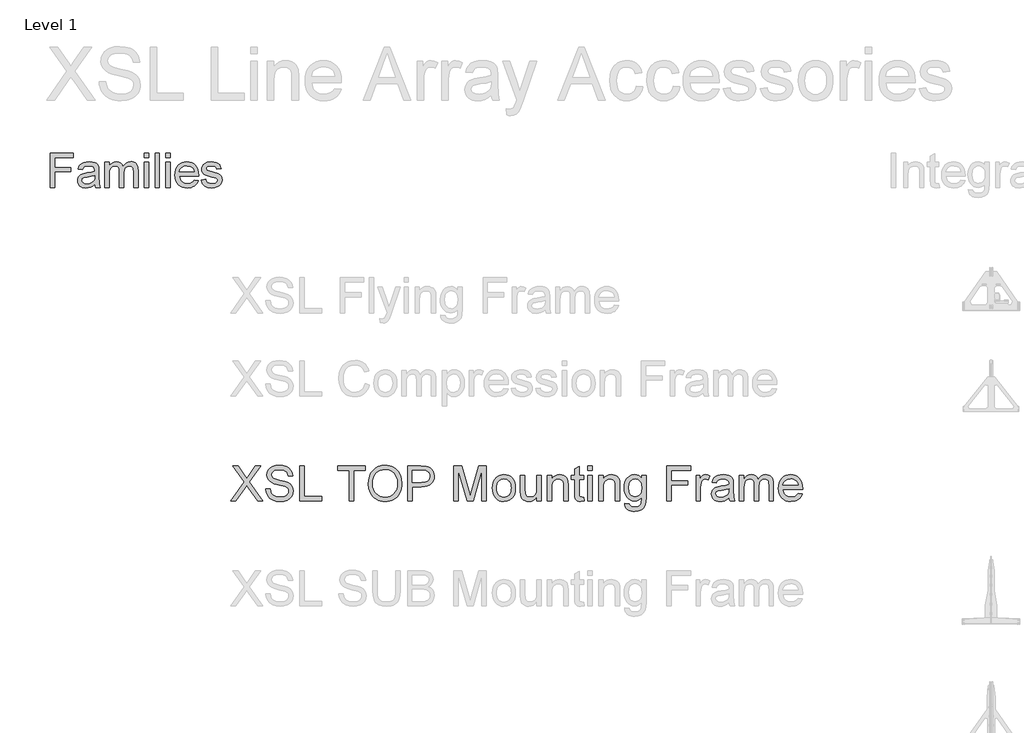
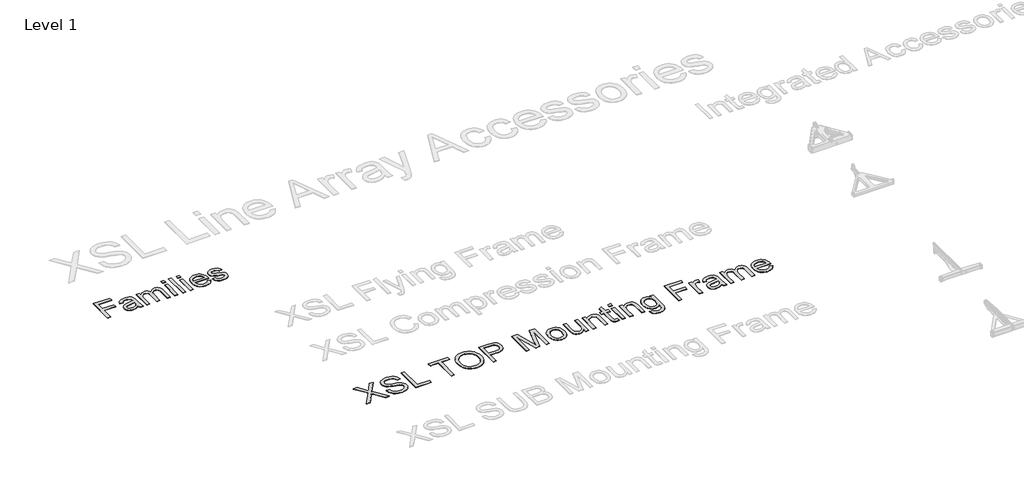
# One storey, part 8 of 52: 2 proxies.
"""IFC4 building model written with IfcOpenShell, lengths in millimetres."""

from ifc_helpers import new_model, si_unit, origin, origin_with_axes, place, context, project, spatial, polyline, outline, extrude, element, save

model = new_model("IFC4")

# Units and contexts
model_context = context("Model", 3, world=origin())
ifc_project = project(units=[si_unit("LENGTHUNIT", "METRE", prefix="MILLI")], contexts=[model_context])

# Site, building, storey
site = spatial("IfcSite", under=ifc_project)
building = spatial("IfcBuilding", under=site)
storey = spatial("IfcBuildingStorey", under=building, Name="Level 1", Elevation=0.0)

# Proxies
placement = place(None, origin())
element("IfcBuildingElementProxy", 1, Name="400mm Arial", ObjectType="400mm Arial", at=placement, inside=storey, context=model_context, shape_type="SweptSolid", body=[
    extrude(outline(polyline([(-21056.720891, -61267.5695164), (-21056.720891, -60875.8119407), (-20793.5087698, -60875.8119407), (-20793.5087698, -60924.7816376), (-21007.7511941, -60924.7816376), (-21007.7511941, -61041.0846679), (-20824.1148304, -61041.0846679), (-20824.1148304, -61090.0543649), (-21007.7511941, -61090.0543649), (-21007.7511941, -61267.5695164), (-21056.720891, -61267.5695164)])), origin_with_axes(), (0.0, 0.0, 1.0), 5.0),
    extrude(outline(polyline([(-20548.660285, -61230.8422437), (-20572.0571836, -61250.90356), (-20596.1475009, -61264.0306907), (-20621.4811893, -61271.2757191), (-20648.6082016, -61273.6907285), (-20670.4120309, -61272.2381362), (-20689.5318522, -61267.8803592), (-20705.9676654, -61260.6173976), (-20719.7194706, -61250.4492513), (-20730.5780466, -61238.0215169), (-20738.3341723, -61223.979791), (-20742.9878477, -61208.3240737), (-20744.5390729, -61191.0543649), (-20742.1957963, -61170.7539388), (-20735.1659668, -61152.3185695), (-20724.3223352, -61136.5373195), (-20710.5376524, -61124.1992513), (-20676.2493001, -61108.1310695), (-20633.879035, -61100.7664861), (-20583.8094327, -61093.019327), (-20548.9472168, -61083.9331528), (-20548.660285, -61073.0297437), (-20552.0317338, -61051.1751035), (-20562.1460804, -61036.8763346), (-20584.7658721, -61026.2598573), (-20616.2805501, -61022.7210316), (-20645.4519516, -61025.0762636), (-20665.8241107, -61032.1419596), (-20679.7163929, -61045.2093128), (-20689.4481638, -61065.5695164), (-20738.4178607, -61059.4483043), (-20729.9175056, -61032.6680013), (-20717.2327282, -61011.6263346), (-20699.1799346, -60995.5342418), (-20674.5755312, -60983.6026604), (-20644.4835568, -60976.214166), (-20609.9680501, -60973.7513346), (-20576.8632916, -60975.9272342), (-20550.6209857, -60982.4549331), (-20530.8346458, -60992.2703924), (-20517.097785, -61004.3095732), (-20507.9876997, -61019.1941613), (-20502.0816865, -61037.5458422), (-20499.690588, -61080.394327), (-20499.690588, -61141.3195164), (-20497.2038456, -61226.3948005), (-20487.4481638, -61267.5695164), (-20536.4178607, -61267.5695164), (-20544.2606638, -61250.5448952), (-20548.660285, -61230.8422437)]), holes=[polyline([(-20548.660285, -61132.9028498), (-20581.5618001, -61141.0564956), (-20627.6621789, -61147.9189482), (-20669.7933342, -61155.8573952), (-20680.7565208, -61161.2851888), (-20688.8743001, -61168.769327), (-20693.8956069, -61177.7359464), (-20695.5693759, -61187.6111831), (-20691.9229507, -61202.1729729), (-20680.9836751, -61214.1045543), (-20662.990659, -61222.0669123), (-20638.1830122, -61224.7210316), (-20611.8809289, -61221.7919359), (-20588.6394516, -61213.004649), (-20569.7975956, -61200.0568507), (-20556.6943759, -61184.646221), (-20550.8840066, -61168.769327), (-20548.9472168, -61146.771221), (-20548.660285, -61132.9028498)])]), origin_with_axes(), (0.0, 0.0, 1.0), 5.0),
    extrude(outline(polyline([(-20432.3572547, -61267.5695164), (-20432.3572547, -60979.8725467), (-20383.3875577, -60979.8725467), (-20383.3875577, -61027.2162967), (-20368.658391, -61005.469256), (-20349.720891, -60988.4326793), (-20327.2206543, -60977.4216708), (-20301.8032774, -60973.7513346), (-20274.5686657, -60977.4934037), (-20252.7379365, -60988.7196111), (-20236.4306448, -61006.6887162), (-20225.7663456, -61030.6594785), (-20207.9167954, -61005.7621656), (-20187.5565918, -60987.9783706), (-20164.6857348, -60977.3080936), (-20139.3042244, -60973.7513346), (-20119.7002057, -60975.2308268), (-20102.4932632, -60979.6693034), (-20087.683397, -60987.0667643), (-20075.2706069, -60997.4232096), (-20065.4581365, -61010.8581942), (-20058.4492291, -61027.4912731), (-20054.2438846, -61047.3224461), (-20052.8421032, -61070.3517134), (-20052.8421032, -61267.5695164), (-20101.8118001, -61267.5695164), (-20101.8118001, -61091.3933801), (-20106.3548872, -61050.505596), (-20112.7391202, -61039.2315666), (-20122.8056448, -61030.3725467), (-20135.7534431, -61024.6339104), (-20150.7814971, -61022.7210316), (-20177.3107348, -61027.6227835), (-20198.9382206, -61042.3280392), (-20207.3279874, -61053.6080463), (-20213.320678, -61067.84106), (-20218.1148304, -61105.1661073), (-20218.1148304, -61267.5695164), (-20267.0845274, -61267.5695164), (-20267.0845274, -61085.9416755), (-20269.9179791, -61058.2527551), (-20278.4183342, -61038.5022816), (-20293.3746552, -61026.6663441), (-20315.5760047, -61022.7210316), (-20334.4417717, -61025.3512399), (-20351.8250577, -61033.2418649), (-20366.1716486, -61046.2016187), (-20375.9273304, -61064.0392134), (-20381.5225009, -61088.7870827), (-20383.3875577, -61122.4776604), (-20383.3875577, -61267.5695164), (-20432.3572547, -61267.5695164)])), origin_with_axes(), (0.0, 0.0, 1.0), 5.0),
    extrude(outline(polyline([(-19979.3875577, -60924.7816376), (-19979.3875577, -60875.8119407), (-19930.4178607, -60875.8119407), (-19930.4178607, -60924.7816376), (-19979.3875577, -60924.7816376)])), origin_with_axes(), (0.0, 0.0, 1.0), 5.0),
    extrude(outline(polyline([(-19979.3875577, -61267.5695164), (-19979.3875577, -60979.8725467), (-19930.4178607, -60979.8725467), (-19930.4178607, -61267.5695164), (-19979.3875577, -61267.5695164)])), origin_with_axes(), (0.0, 0.0, 1.0), 5.0),
    extrude(outline(polyline([(-19856.9633153, -61267.5695164), (-19856.9633153, -60875.8119407), (-19807.9936183, -60875.8119407), (-19807.9936183, -61267.5695164), (-19856.9633153, -61267.5695164)])), origin_with_axes(), (0.0, 0.0, 1.0), 5.0),
    extrude(outline(polyline([(-19734.5390729, -60924.7816376), (-19734.5390729, -60875.8119407), (-19685.5693759, -60875.8119407), (-19685.5693759, -60924.7816376), (-19734.5390729, -60924.7816376)])), origin_with_axes(), (0.0, 0.0, 1.0), 5.0),
    extrude(outline(polyline([(-19734.5390729, -61267.5695164), (-19734.5390729, -60979.8725467), (-19685.5693759, -60979.8725467), (-19685.5693759, -61267.5695164), (-19734.5390729, -61267.5695164)])), origin_with_axes(), (0.0, 0.0, 1.0), 5.0),
    extrude(outline(polyline([(-19410.6886941, -61181.8725467), (-19362.6754365, -61187.9937589), (-19370.0370309, -61207.2241684), (-19379.975034, -61224.1710789), (-19392.4894457, -61238.8344904), (-19407.580266, -61251.2144028), (-19425.0920736, -61261.0477953), (-19444.8694469, -61268.0716471), (-19491.220891, -61273.6907285), (-19521.605775, -61271.2667525), (-19548.6789876, -61263.9948242), (-19572.4405288, -61251.8749437), (-19592.8903986, -61234.9071111), (-19609.3351784, -61213.5635683), (-19621.0814497, -61188.3165571), (-19628.1292125, -61159.1660777), (-19630.4784668, -61126.1121301), (-19628.1053015, -61091.937355), (-19620.9858058, -61061.8154918), (-19609.1199796, -61035.7465406), (-19592.5078229, -61013.7305013), (-19572.1117528, -60996.2396159), (-19548.8941865, -60983.7461263), (-19522.855124, -60976.2500325), (-19493.9945653, -60973.7513346), (-19466.0635461, -60976.2440548), (-19440.8045795, -60983.7222153), (-19418.2176654, -60996.1858161), (-19398.3028039, -61013.6348573), (-19382.0463231, -61035.6030747), (-19370.4345511, -61061.6242039), (-19363.4674879, -61091.6982451), (-19361.1451335, -61125.8251982), (-19361.4320653, -61139.0240619), (-19581.5087698, -61139.0240619), (-19578.6723292, -61158.5653142), (-19573.0323257, -61175.6796017), (-19564.5887592, -61190.3669241), (-19553.3416297, -61202.6272816), (-19524.9234242, -61219.1975941), (-19490.2644516, -61224.7210316), (-19464.2014782, -61222.1625562), (-19442.2511941, -61214.4871301), (-19424.4135994, -61201.2165335), (-19410.6886941, -61181.8725467)]), holes=[polyline([(-19581.5087698, -61090.0543649), (-19410.1148304, -61090.0543649), (-19416.7381732, -61064.1826793), (-19429.721838, -61045.675577), (-19443.076123, -61035.6329634), (-19458.2715539, -61028.4596679), (-19494.1858532, -61022.7210316), (-19527.1949677, -61027.2999852), (-19554.4893569, -61041.036846), (-19573.4627234, -61062.4491329), (-19581.5087698, -61090.0543649)])]), origin_with_axes(), (0.0, 0.0, 1.0), 5.0),
    extrude(outline(polyline([(-19330.5390729, -61181.8725467), (-19281.5693759, -61175.7513346), (-19273.8461278, -61196.6973573), (-19258.9017622, -61212.0960316), (-19236.6406354, -61221.5647816), (-19206.9671032, -61224.7210316), (-19177.6522357, -61221.8278024), (-19157.0409668, -61213.1481149), (-19144.8463645, -61200.5709369), (-19140.7814971, -61185.9852361), (-19144.8702755, -61173.503702), (-19157.1366107, -61163.9871301), (-19207.5409668, -61150.0231149), (-19281.2824441, -61126.0643081), (-19299.9449677, -61114.0251272), (-19313.4666297, -61098.0884558), (-19321.680053, -61079.2705107), (-19324.4178607, -61058.5875089), (-19322.2180501, -61039.6141424), (-19315.6186183, -61022.099346), (-19305.2173399, -61006.7365382), (-19291.6119895, -60994.2191376), (-19260.4798872, -60979.7290808), (-19218.3487319, -60973.7513346), (-19186.4753891, -60976.1543886), (-19158.7625577, -60983.3635505), (-19136.4775198, -60994.6734464), (-19120.8875577, -61009.378702), (-19110.5580122, -61028.5672674), (-19104.0542244, -61053.3270922), (-19153.0239213, -61059.4483043), (-19159.2049109, -61044.0376746), (-19171.4353797, -61032.4288914), (-19189.8348825, -61025.1479965), (-19214.5229744, -61022.7210316), (-19242.6422925, -61025.0403971), (-19261.3885047, -61031.9984937), (-19271.933249, -61042.0411073), (-19275.4481638, -61053.614024), (-19269.6138835, -61067.864971), (-19251.345891, -61078.6727361), (-19209.1669138, -61089.0979255), (-19137.2904933, -61112.1481149), (-19118.3051713, -61123.1710789), (-19103.9107585, -61138.2589104), (-19094.8365397, -61157.4594312), (-19091.8118001, -61180.8204634), (-19095.3625814, -61204.9705581), (-19106.0149251, -61227.6859937), (-19123.3623446, -61247.1854018), (-19146.9983532, -61261.6874142), (-19175.5480691, -61270.6899), (-19207.6366107, -61273.6907285), (-19233.9924938, -61272.244114), (-19257.0127944, -61267.9042702), (-19276.6975127, -61260.6711973), (-19293.0466486, -61250.5448952), (-19306.4009336, -61237.5731859), (-19317.1010994, -61221.8038914), (-19325.1471458, -61203.2370117), (-19330.5390729, -61181.8725467)])), origin_with_axes(), (0.0, 0.0, 1.0), 5.0),
])
element("IfcBuildingElementProxy", 2, Name="400mm Arial", ObjectType="400mm Arial", at=placement, inside=storey, context=model_context, shape_type="SweptSolid", body=[
    extrude(outline(polyline([(-18995.0211414, -64856.6859046), (-18840.118296, -64637.722541), (-18969.9070639, -64454.860664), (-18909.6725186, -64454.860664), (-18836.5866289, -64557.7695207), (-18811.9630606, -64597.8931837), (-18783.1211122, -64557.0828077), (-18710.8200374, -64454.860664), (-18649.7025753, -64454.860664), (-18779.4913432, -64638.3111522), (-18624.5884978, -64856.6859046), (-18684.8230431, -64856.6859046), (-18788.0262055, -64711.1027363), (-18809.510514, -64680.8873618), (-18833.1530636, -64714.0457923), (-18933.9036793, -64856.6859046), (-18995.0211414, -64856.6859046)])), origin_with_axes(), (0.0, 0.0, 1.0), 5.0),
    extrude(outline(polyline([(-18593.1959008, -64718.5584781), (-18542.9677458, -64718.5584781), (-18537.2042612, -64746.4316706), (-18526.780938, -64768.8356841), (-18510.5205538, -64786.6166472), (-18487.2458862, -64800.6206885), (-18458.7963453, -64809.7073738), (-18427.0113409, -64812.7362689), (-18399.0277838, -64810.4431378), (-18374.5268429, -64803.5637445), (-18354.6734779, -64792.6744374), (-18340.6326484, -64778.3515651), (-18332.2817271, -64761.9072399), (-18329.4980867, -64744.6535743), (-18331.5827513, -64727.8413671), (-18337.8367453, -64713.3100283), (-18350.5409368, -64700.9124051), (-18371.9761944, -64690.5013446), (-18445.1111351, -64671.3224299), (-18493.1197354, -64658.6305011), (-18523.837882, -64646.5517089), (-18548.841595, -64629.6536626), (-18566.5612444, -64609.1748982), (-18577.1194577, -64585.5568741), (-18580.6388621, -64559.2410487), (-18576.2855918, -64529.8227518), (-18563.225781, -64502.3910177), (-18541.8027861, -64479.1408756), (-18512.3599638, -64462.2673548), (-18477.0187668, -64452.0034471), (-18437.9006479, -64448.5821446), (-18395.5206421, -64452.1628627), (-18358.438137, -64462.9050169), (-18327.9775078, -64480.5878782), (-18305.4631297, -64504.9907172), (-18291.2138337, -64534.592955), (-18285.548451, -64567.8740129), (-18335.7766061, -64567.8740129), (-18344.9981814, -64537.903893), (-18353.3613655, -64526.04583), (-18364.226147, -64516.2724317), (-18394.2698433, -64503.1758327), (-18435.9386106, -64498.8102996), (-18478.5883966, -64503.1267817), (-18494.8917004, -64508.5223843), (-18507.847278, -64516.076228), (-18524.7698497, -64535.1325153), (-18530.410707, -64557.7695207), (-18526.413056, -64577.0710628), (-18514.4201029, -64592.595683), (-18486.0686638, -64606.4770969), (-18432.4069435, -64620.6528165), (-18377.0284405, -64634.1172975), (-18343.5266535, -64645.8649959), (-18314.8931715, -64664.0874173), (-18294.9171792, -64686.57727), (-18283.1817435, -64713.0892991), (-18279.2699316, -64743.37825), (-18283.7703547, -64774.3416513), (-18297.2716239, -64803.4656426), (-18319.2219163, -64828.5306692), (-18349.0694088, -64847.3171764), (-18384.9624288, -64859.0526121), (-18425.0493036, -64862.9644239), (-18474.2596518, -64858.7460437), (-18514.7634595, -64846.0909031), (-18547.0267105, -64824.9499511), (-18571.5153886, -64795.2741368), (-18587.2362125, -64759.1235994), (-18593.1959008, -64718.5584781)])), origin_with_axes(), (0.0, 0.0, 1.0), 5.0),
    extrude(outline(polyline([(-18203.927699, -64856.6859046), (-18203.927699, -64454.860664), (-18153.6995439, -64454.860664), (-18153.6995439, -64806.4577495), (-17952.7869236, -64806.4577495), (-17952.7869236, -64856.6859046), (-18203.927699, -64856.6859046)])), origin_with_axes(), (0.0, 0.0, 1.0), 5.0),
    extrude(outline(polyline([(-17638.8609544, -64856.6859046), (-17638.8609544, -64505.088819), (-17770.7098615, -64505.088819), (-17770.7098615, -64454.860664), (-17456.7838923, -64454.860664), (-17456.7838923, -64505.088819), (-17588.6327993, -64505.088819), (-17588.6327993, -64856.6859046), (-17638.8609544, -64856.6859046)])), origin_with_axes(), (0.0, 0.0, 1.0), 5.0),
    extrude(outline(polyline([(-17419.112776, -64661.070785), (-17415.7650498, -64613.93897), (-17405.7218713, -64572.2150204), (-17388.9832406, -64535.8989361), (-17365.5491575, -64504.9907172), (-17336.823705, -64480.3119667), (-17304.2109661, -64462.6842877), (-17267.7109409, -64452.1076804), (-17227.3236292, -64448.5821446), (-17200.2904339, -64450.2376136), (-17174.618402, -64455.2040205), (-17150.3075335, -64463.4813654), (-17127.3578283, -64475.0696482), (-17106.4130801, -64489.6193811), (-17088.1170822, -64506.7810762), (-17072.4698346, -64526.5547335), (-17059.4713375, -64548.9403529), (-17049.2564808, -64573.429031), (-17041.9601545, -64599.5118645), (-17036.1230935, -64656.4599973), (-17037.6590009, -64686.1174175), (-17042.2667228, -64714.1684196), (-17049.9462595, -64740.6130037), (-17060.6976108, -64765.4511698), (-17074.2663251, -64788.0268615), (-17090.3979505, -64807.6840228), (-17109.0924873, -64824.4226536), (-17130.3499352, -64838.2427539), (-17153.3333629, -64849.0584845), (-17177.2058387, -64856.7840064), (-17201.9673626, -64861.4193196), (-17227.6179347, -64862.9644239), (-17255.1232453, -64861.2568383), (-17281.1325023, -64856.1340816), (-17305.6457059, -64847.5961536), (-17328.6628561, -64835.6430544), (-17349.5830789, -64820.7377023), (-17367.8055004, -64803.3430153), (-17383.3301206, -64783.4589934), (-17396.1569395, -64761.0856367), (-17413.3738168, -64712.4638997), (-17419.112776, -64661.070785)]), holes=[polyline([(-17368.8846209, -64661.5612943), (-17366.3738263, -64694.8607462), (-17358.8414424, -64724.4200646), (-17346.2874693, -64750.2392493), (-17328.711907, -64772.3183003), (-17307.3471602, -64790.0011616), (-17283.4256334, -64802.6317767), (-17256.9473268, -64810.2101458), (-17227.9122403, -64812.7362689), (-17198.3805132, -64810.1856204), (-17171.5895069, -64802.5336749), (-17147.5392214, -64789.7804324), (-17126.2296569, -64771.9258929), (-17108.7828533, -64749.3808579), (-17096.3208507, -64722.5561291), (-17088.8436491, -64691.4517064), (-17086.3512486, -64656.0675899), (-17090.6186797, -64611.6029194), (-17103.4209732, -64573.1715136), (-17124.4270351, -64541.7421285), (-17153.3057717, -64518.2835199), (-17188.1441967, -64503.6786047), (-17227.0293236, -64498.8102996), (-17255.0558002, -64501.1555474), (-17281.0589259, -64508.1912905), (-17305.0387006, -64519.9175291), (-17326.9951244, -64536.3342632), (-17345.3217791, -64558.2324389), (-17358.4122468, -64586.4030027), (-17366.2665274, -64620.8459545), (-17368.8846209, -64661.5612943)])]), origin_with_axes(), (0.0, 0.0, 1.0), 5.0),
    extrude(outline(polyline([(-16967.0593803, -64856.6859046), (-16967.0593803, -64454.860664), (-16818.1407487, -64454.860664), (-16758.102407, -64458.6866367), (-16731.3328605, -64465.8358101), (-16709.296729, -64477.4731439), (-16691.5525541, -64494.1259356), (-16677.6588774, -64516.3214826), (-16668.6825567, -64542.5024179), (-16665.6904498, -64571.1113744), (-16667.7107351, -64595.7778622), (-16673.771591, -64618.4700499), (-16683.8730175, -64639.1879376), (-16698.0150145, -64657.9315253), (-16717.4299868, -64673.4684082), (-16743.350339, -64684.5661817), (-16775.7760712, -64691.2248459), (-16814.7071834, -64693.4444006), (-16916.8312252, -64693.4444006), (-16916.8312252, -64856.6859046), (-16967.0593803, -64856.6859046)]), holes=[polyline([(-16916.8312252, -64643.2162455), (-16811.7641274, -64643.2162455), (-16767.2258805, -64638.6054578), (-16750.6221398, -64632.8419732), (-16737.7953209, -64624.7730948), (-16728.2242577, -64614.6134204), (-16721.3877839, -64602.5775478), (-16715.9186049, -64572.877208), (-16719.1437037, -64550.313779), (-16728.8190002, -64531.2820171), (-16743.7427465, -64516.9591447), (-16762.7131947, -64508.5223843), (-16812.9413498, -64505.088819), (-16916.8312252, -64505.088819), (-16916.8312252, -64643.2162455)])]), origin_with_axes(), (0.0, 0.0, 1.0), 5.0),
    extrude(outline(polyline([(-16439.663752, -64856.6859046), (-16439.663752, -64454.860664), (-16353.2360086, -64454.860664), (-16271.0266454, -64738.0807493), (-16254.4474302, -64797.2361741), (-16236.4947888, -64733.175656), (-16155.6588517, -64454.860664), (-16069.2311083, -64454.860664), (-16069.2311083, -64856.6859046), (-16119.4592634, -64856.6859046), (-16119.4592634, -64505.088819), (-16220.4060829, -64856.6859046), (-16288.4887775, -64856.6859046), (-16389.4355969, -64505.088819), (-16389.4355969, -64856.6859046), (-16439.663752, -64856.6859046)])), origin_with_axes(), (0.0, 0.0, 1.0), 5.0),
    extrude(outline(polyline([(-16000.1673951, -64709.140699), (-15997.4511997, -64670.9238911), (-15989.3026135, -64637.9923212), (-15975.7216365, -64610.3459892), (-15956.7082687, -64587.9848953), (-15937.5661423, -64573.6926798), (-15916.437453, -64563.4839544), (-15893.322201, -64557.3587192), (-15868.2203862, -64555.3169741), (-15840.5096749, -64557.8032433), (-15815.4538453, -64565.2620507), (-15793.0528975, -64577.6933965), (-15773.3068314, -64595.0972805), (-15757.1905343, -64616.8850917), (-15745.6788936, -64642.4682188), (-15738.7719091, -64671.8466618), (-15736.469581, -64705.0204207), (-15740.5408084, -64755.7636105), (-15752.7544906, -64794.39122), (-15772.7550084, -64823.3190076), (-15800.1867425, -64844.9627316), (-15832.7688246, -64858.4640009), (-15868.2203862, -64862.9644239), (-15896.3357677, -64860.4873518), (-15921.6245891, -64853.0561355), (-15944.0868506, -64840.670775), (-15963.7225521, -64823.3312703), (-15979.6671709, -64801.331927), (-15991.0561844, -64774.9670507), (-15997.8895924, -64744.2366414), (-16000.1673951, -64709.140699)]), holes=[polyline([(-15949.93924, -64709.0425972), (-15948.4861062, -64733.4055823), (-15944.1267045, -64754.500549), (-15936.8610351, -64772.3274974), (-15926.6890979, -64786.8864273), (-15914.3160002, -64798.195733), (-15900.4468489, -64806.2738085), (-15885.0816443, -64811.1206538), (-15868.2203862, -64812.7362689), (-15851.4449672, -64811.1114567), (-15836.1410762, -64806.2370203), (-15822.3087132, -64798.1129596), (-15809.9478781, -64786.7392745), (-15799.775941, -64772.0362575), (-15792.5102716, -64753.9242006), (-15788.1508699, -64732.4031039), (-15786.697736, -64707.4729673), (-15788.160067, -64683.8825344), (-15792.5470598, -64663.3393906), (-15799.8587144, -64645.8435361), (-15810.0950309, -64631.3949707), (-15822.5018512, -64620.085665), (-15836.3250172, -64612.0075896), (-15851.5645288, -64607.1607443), (-15868.2203862, -64605.5451292), (-15885.0816443, -64607.1546129), (-15900.4468489, -64611.9830641), (-15914.3160002, -64620.0304827), (-15926.6890979, -64631.2968688), (-15936.8610351, -64645.8128792), (-15944.1267045, -64663.6091708), (-15948.4861062, -64684.6857434), (-15949.93924, -64709.0425972)])]), origin_with_axes(), (0.0, 0.0, 1.0), 5.0),
    extrude(outline(polyline([(-15491.607325, -64856.6859046), (-15491.607325, -64805.9672402), (-15509.7806955, -64830.9035081), (-15530.946173, -64848.715128), (-15555.1037573, -64859.4021), (-15582.2534486, -64862.9644239), (-15606.7176013, -64860.4628264), (-15629.4894968, -64852.9580337), (-15648.5948351, -64841.6763192), (-15662.0593161, -64827.8439561), (-15671.1214759, -64811.0440117), (-15677.0198505, -64790.8595529), (-15679.9629065, -64744.163065), (-15679.9629065, -64561.5954935), (-15629.7347514, -64561.5954935), (-15629.7347514, -64720.5205154), (-15626.6935936, -64771.7296891), (-15619.3727419, -64788.8116764), (-15606.8279659, -64801.7979109), (-15589.8931314, -64810.0016794), (-15569.4021042, -64812.7362689), (-15547.7338547, -64809.9403657), (-15527.4635568, -64801.5526562), (-15510.7494515, -64788.3456926), (-15499.7497798, -64771.092027), (-15493.6429387, -64747.4617402), (-15491.607325, -64715.1249128), (-15491.607325, -64561.5954935), (-15441.3791699, -64561.5954935), (-15441.3791699, -64856.6859046), (-15491.607325, -64856.6859046)])), origin_with_axes(), (0.0, 0.0, 1.0), 5.0),
    extrude(outline(polyline([(-15372.3154567, -64856.6859046), (-15372.3154567, -64561.5954935), (-15322.0873016, -64561.5954935), (-15322.0873016, -64602.798277), (-15304.6374323, -64582.025207), (-15283.6804213, -64567.1872998), (-15259.2162686, -64558.2845555), (-15231.2449743, -64555.3169741), (-15206.486516, -64557.7082071), (-15183.8127223, -64564.881906), (-15164.9035878, -64575.9428913), (-15151.4391068, -64589.9959835), (-15142.3033706, -64607.0043944), (-15136.3804704, -64626.9313358), (-15133.7317201, -64675.4917592), (-15133.7317201, -64856.6859046), (-15183.9598751, -64856.6859046), (-15183.9598751, -64682.2607879), (-15185.4068777, -64656.2883191), (-15189.7478852, -64637.8206429), (-15197.75545, -64624.5891538), (-15210.2021241, -64614.3252461), (-15226.15594, -64607.7401584), (-15244.6849298, -64605.5451292), (-15274.1032267, -64610.4747479), (-15299.180516, -64625.2636041), (-15309.2022347, -64637.3362649), (-15316.3606052, -64653.8357724), (-15320.6556275, -64674.7621266), (-15322.0873016, -64700.1153274), (-15322.0873016, -64856.6859046), (-15372.3154567, -64856.6859046)])), origin_with_axes(), (0.0, 0.0, 1.0), 5.0),
    extrude(outline(polyline([(-14957.9331773, -64814.796408), (-14951.6546579, -64858.1574325), (-14989.2276724, -64862.9644239), (-15013.3362058, -64860.8797593), (-15031.3133726, -64854.6257654), (-15044.0175642, -64844.9872571), (-15052.3071718, -64832.7490494), (-15056.8689085, -64811.7307247), (-15058.3894875, -64775.7518656), (-15058.3894875, -64611.8236486), (-15096.0606038, -64611.8236486), (-15096.0606038, -64561.5954935), (-15058.3894875, -64561.5954935), (-15058.3894875, -64489.8830299), (-15008.1613324, -64460.3543684), (-15008.1613324, -64561.5954935), (-14957.9331773, -64561.5954935), (-14957.9331773, -64611.8236486), (-15008.1613324, -64611.8236486), (-15008.1613324, -64774.2803376), (-15005.512582, -64800.1792301), (-14996.9286688, -64809.3517545), (-14979.8098933, -64812.7362689), (-14957.9331773, -64814.796408)])), origin_with_axes(), (0.0, 0.0, 1.0), 5.0),
    extrude(outline(polyline([(-14907.7050222, -64856.6859046), (-14907.7050222, -64561.5954935), (-14857.4768672, -64561.5954935), (-14857.4768672, -64856.6859046), (-14907.7050222, -64856.6859046)])), origin_with_axes(), (0.0, 0.0, 1.0), 5.0),
    extrude(outline(polyline([(-14907.7050222, -64505.088819), (-14907.7050222, -64454.860664), (-14857.4768672, -64454.860664), (-14857.4768672, -64505.088819), (-14907.7050222, -64505.088819)])), origin_with_axes(), (0.0, 0.0, 1.0), 5.0),
    extrude(outline(polyline([(-14782.1346345, -64856.6859046), (-14782.1346345, -64561.5954935), (-14731.9064795, -64561.5954935), (-14731.9064795, -64602.798277), (-14714.4566102, -64582.025207), (-14693.4995992, -64567.1872998), (-14669.0354465, -64558.2845555), (-14641.0641521, -64555.3169741), (-14616.3056939, -64557.7082071), (-14593.6319002, -64564.881906), (-14574.7227657, -64575.9428913), (-14561.2582846, -64589.9959835), (-14552.1225484, -64607.0043944), (-14546.1996483, -64626.9313358), (-14543.5508979, -64675.4917592), (-14543.5508979, -64856.6859046), (-14593.779053, -64856.6859046), (-14593.779053, -64682.2607879), (-14595.2260555, -64656.2883191), (-14599.5670631, -64637.8206429), (-14607.5746278, -64624.5891538), (-14620.021302, -64614.3252461), (-14635.9751179, -64607.7401584), (-14654.5041077, -64605.5451292), (-14683.9224046, -64610.4747479), (-14708.9996939, -64625.2636041), (-14719.0214126, -64637.3362649), (-14726.1797831, -64653.8357724), (-14730.4748054, -64674.7621266), (-14731.9064795, -64700.1153274), (-14731.9064795, -64856.6859046), (-14782.1346345, -64856.6859046)])), origin_with_axes(), (0.0, 0.0, 1.0), 5.0),
    extrude(outline(polyline([(-14487.0442235, -64881.7999821), (-14436.8160684, -64888.0785015), (-14431.273313, -64903.7747999), (-14420.5311588, -64914.5660051), (-14399.4147322, -64922.9537146), (-14371.7745317, -64925.7496178), (-14342.2949211, -64922.5858326), (-14320.3691542, -64913.0944772), (-14305.1633651, -64897.888688), (-14295.8436879, -64877.5816019), (-14292.4101226, -64819.0147883), (-14309.1242279, -64835.4959016), (-14327.775845, -64847.2681255), (-14348.364974, -64854.3314598), (-14370.8916149, -64856.6859046), (-14398.4306479, -64853.9451837), (-14422.6771371, -64845.7230211), (-14443.6310824, -64832.0194168), (-14461.2924838, -64812.8343707), (-14475.3057222, -64789.8172206), (-14485.3151781, -64764.6173039), (-14491.3208517, -64737.2346207), (-14493.3227429, -64707.669171), (-14489.729762, -64667.1163124), (-14478.9508196, -64629.8253409), (-14461.3660602, -64598.2242775), (-14437.3556287, -64574.7411435), (-14407.7411281, -64560.1730164), (-14373.3441615, -64555.3169741), (-14349.8548961, -64558.0638263), (-14328.5361345, -64566.304383), (-14309.3878766, -64580.0386442), (-14292.4101226, -64599.2666098), (-14292.4101226, -64561.5954935), (-14242.1819675, -64561.5954935), (-14242.1819675, -64816.3660379), (-14245.6155328, -64875.1903689), (-14255.9162286, -64913.928343), (-14273.6604035, -64939.618769), (-14299.4244059, -64959.3004557), (-14332.6441501, -64971.8084436), (-14372.7555503, -64975.9777729), (-14397.3637901, -64974.5093106), (-14419.4888264, -64970.1039237), (-14439.1306593, -64962.7616122), (-14456.2892887, -64952.4823761), (-14470.1492429, -64939.2539527), (-14479.89505, -64923.0640792), (-14485.5267102, -64903.9127557), (-14487.0442235, -64881.7999821)]), holes=[polyline([(-14443.0945878, -64704.2356058), (-14437.7357734, -64750.3066943), (-14431.0372554, -64767.9435703), (-14421.6593302, -64781.9813341), (-14410.258054, -64792.6897658), (-14397.4894831, -64800.3386456), (-14383.3536175, -64804.9279735), (-14367.850457, -64806.4577495), (-14352.5005808, -64804.9371706), (-14338.4321602, -64800.3754338), (-14325.6451951, -64792.7725393), (-14314.1396857, -64782.1284869), (-14304.6330019, -64768.2286788), (-14297.8425134, -64750.8585173), (-14292.4101226, -64705.7071337), (-14298.0019289, -64662.1621682), (-14304.9916868, -64644.9606193), (-14314.7773479, -64630.8063595), (-14326.5311776, -64619.7545712), (-14339.4254415, -64611.8604368), (-14353.4601397, -64607.1239561), (-14368.635272, -64605.5451292), (-14383.5559526, -64607.0994306), (-14397.3178049, -64611.7623349), (-14421.3650246, -64630.4139521), (-14430.8717085, -64644.353614), (-14437.662197, -64661.3037769), (-14443.0945878, -64704.2356058)])]), origin_with_axes(), (0.0, 0.0, 1.0), 5.0),
    extrude(outline(polyline([(-14003.5982309, -64856.6859046), (-14003.5982309, -64454.860664), (-13733.6218974, -64454.860664), (-13733.6218974, -64505.088819), (-13953.3700758, -64505.088819), (-13953.3700758, -64624.3806873), (-13765.0144943, -64624.3806873), (-13765.0144943, -64674.6088424), (-13953.3700758, -64674.6088424), (-13953.3700758, -64856.6859046), (-14003.5982309, -64856.6859046)])), origin_with_axes(), (0.0, 0.0, 1.0), 5.0),
    extrude(outline(polyline([(-13670.8367035, -64856.6859046), (-13670.8367035, -64561.5954935), (-13626.8870678, -64561.5954935), (-13626.8870678, -64605.2508236), (-13610.6512091, -64579.9405423), (-13595.6906746, -64565.0290588), (-13580.6810892, -64557.7449953), (-13564.2980777, -64555.3169741), (-13539.282102, -64559.1919978), (-13513.8737189, -64570.8170688), (-13530.6491379, -64615.845825), (-13548.3074737, -64608.1203031), (-13565.9658094, -64605.5451292), (-13580.9631321, -64608.0222013), (-13594.3662995, -64615.4534176), (-13605.1942928, -64627.2746924), (-13612.4660936, -64642.9219399), (-13618.5729347, -64670.9790734), (-13620.6085484, -64701.5868554), (-13620.6085484, -64856.6859046), (-13670.8367035, -64856.6859046)])), origin_with_axes(), (0.0, 0.0, 1.0), 5.0),
    extrude(outline(polyline([(-13294.1255405, -64819.0147883), (-13318.1237093, -64839.5916545), (-13342.8331166, -64853.0561355), (-13368.8178482, -64860.4873518), (-13396.6419898, -64862.9644239), (-13419.0061494, -64861.4745019), (-13438.6173254, -64857.0047356), (-13455.4755179, -64849.5551252), (-13469.5807267, -64839.1256707), (-13480.7183541, -64826.3785595), (-13488.6738022, -64811.9759794), (-13493.4470711, -64795.9179303), (-13495.0381608, -64778.2044123), (-13492.6346651, -64757.3822913), (-13485.4241779, -64738.4731568), (-13474.301879, -64722.286349), (-13460.1629476, -64709.6312084), (-13443.5469442, -64700.0662765), (-13424.9934289, -64693.150095), (-13381.5343025, -64685.5962513), (-13330.177976, -64677.6500002), (-13294.419846, -64668.330323), (-13294.1255405, -64657.1467104), (-13297.5836312, -64634.7304341), (-13307.9579035, -64620.0642053), (-13331.1589946, -64609.1748982), (-13363.4835593, -64605.5451292), (-13393.4046282, -64607.9608876), (-13414.3003255, -64615.2081629), (-13428.5496215, -64628.6113303), (-13438.5314863, -64649.4947649), (-13488.7596414, -64643.2162455), (-13480.0408381, -64615.7477232), (-13467.0300782, -64594.1653128), (-13448.5133511, -64577.6596739), (-13423.2766462, -64565.4214662), (-13392.4113468, -64557.8430971), (-13357.0088362, -64555.3169741), (-13323.053328, -64557.5487915), (-13296.1366287, -64564.2442439), (-13275.8418053, -64574.3119478), (-13261.7519249, -64586.6605201), (-13252.4077222, -64601.9276229), (-13246.349932, -64620.7509183), (-13243.8973854, -64664.700554), (-13243.8973854, -64727.1914423), (-13241.3467369, -64814.4530515), (-13231.3403466, -64856.6859046), (-13281.5685017, -64856.6859046), (-13289.6128546, -64839.2237725), (-13294.1255405, -64819.0147883)]), holes=[polyline([(-13294.1255405, -64718.5584781), (-13327.8725821, -64726.9216621), (-13375.1576813, -64733.960471), (-13418.371553, -64742.1029258), (-13429.6164793, -64747.6702067), (-13437.9428751, -64755.3466776), (-13443.093223, -64764.5437275), (-13444.8100057, -64774.6727451), (-13441.0698721, -64789.6087541), (-13429.8494712, -64801.8469618), (-13411.3940578, -64810.0139421), (-13385.9488864, -64812.7362689), (-13358.9708735, -64809.7318992), (-13335.1321202, -64800.7187904), (-13315.8060527, -64787.4382503), (-13302.3660971, -64771.6315873), (-13296.4064088, -64755.3466776), (-13294.419846, -64732.7832486), (-13294.1255405, -64718.5584781)])]), origin_with_axes(), (0.0, 0.0, 1.0), 5.0),
    extrude(outline(polyline([(-13174.8336722, -64856.6859046), (-13174.8336722, -64561.5954935), (-13124.6055171, -64561.5954935), (-13124.6055171, -64610.1559169), (-13109.4978298, -64587.8500052), (-13090.0736605, -64570.3756104), (-13066.9951966, -64559.0816332), (-13040.9246259, -64555.3169741), (-13012.9901197, -64559.1552096), (-12990.598369, -64570.669916), (-12973.8720009, -64589.100804), (-12962.9336429, -64613.687584), (-12944.6253823, -64588.1504422), (-12923.7419477, -64569.9096266), (-12900.2833392, -64558.9651372), (-12874.2495566, -64555.3169741), (-12854.1417399, -64556.8344873), (-12836.4926012, -64561.387027), (-12821.3021405, -64568.9745932), (-12808.5703578, -64579.5971858), (-12798.5057195, -64593.3774322), (-12791.3166922, -64610.4379597), (-12787.0032758, -64630.7787684), (-12785.5654703, -64654.3998581), (-12785.5654703, -64856.6859046), (-12835.7936254, -64856.6859046), (-12835.7936254, -64675.9822685), (-12836.958585, -64650.9295047), (-12840.453464, -64634.0437211), (-12847.0017635, -64622.4799637), (-12857.3269848, -64613.3932784), (-12870.6075249, -64607.5071665), (-12886.0217805, -64605.5451292), (-12913.2327854, -64610.5728498), (-12935.4160697, -64625.6560116), (-12944.0214427, -64637.2259003), (-12950.1681377, -64651.8246842), (-12955.0854937, -64690.1089371), (-12955.0854937, -64856.6859046), (-13005.3136488, -64856.6859046), (-13005.3136488, -64670.3904622), (-13008.2199165, -64641.9899722), (-13016.9387198, -64621.731937), (-13032.279399, -64609.5918311), (-13055.0512945, -64605.5451292), (-13074.4018875, -64608.2429305), (-13092.2319015, -64616.3363344), (-13106.9471813, -64629.6291371), (-13116.9535716, -64647.925135), (-13122.6925307, -64673.3089927), (-13124.6055171, -64707.8653748), (-13124.6055171, -64856.6859046), (-13174.8336722, -64856.6859046)])), origin_with_axes(), (0.0, 0.0, 1.0), 5.0),
    extrude(outline(polyline([(-12503.6207092, -64768.7866332), (-12454.3735728, -64775.0651526), (-12461.9243507, -64794.7897589), (-12472.1177477, -64812.1721831), (-12484.9537636, -64827.2124254), (-12500.4323986, -64839.9104856), (-12518.394237, -64849.9965836), (-12538.6798634, -64857.2009394), (-12586.2224799, -64862.9644239), (-12617.3882162, -64860.4781548), (-12645.1571755, -64853.0193473), (-12669.5293577, -64840.5880016), (-12690.5047628, -64823.1841175), (-12707.3721522, -64801.2920731), (-12719.4202876, -64775.3962464), (-12726.6491688, -64745.4966372), (-12729.0587959, -64711.5932457), (-12726.6246433, -64676.5402229), (-12719.3221857, -64645.6442667), (-12707.151423, -64618.905377), (-12690.1123553, -64596.3235538), (-12669.1921325, -64578.3831752), (-12645.3779047, -64565.568619), (-12618.6696718, -64557.8798853), (-12589.067434, -64555.3169741), (-12560.4186236, -64557.873754), (-12534.5105341, -64565.5440936), (-12511.3431654, -64578.3279929), (-12490.9165177, -64596.225452), (-12474.2422662, -64618.7582242), (-12462.3320866, -64645.4480629), (-12455.1859789, -64676.2949682), (-12452.803943, -64711.2989401), (-12453.0982485, -64724.8369975), (-12678.8306408, -64724.8369975), (-12675.9213073, -64744.8804349), (-12670.136363, -64762.4345374), (-12661.4758077, -64777.4993051), (-12649.9396414, -64790.074738), (-12636.1655264, -64799.9891577), (-12620.7911247, -64807.0708861), (-12585.2414612, -64812.7362689), (-12558.5087029, -64810.112044), (-12535.9943248, -64802.2393693), (-12517.6983269, -64788.6277354), (-12503.6207092, -64768.7866332)]), holes=[polyline([(-12678.8306408, -64674.6088424), (-12503.032098, -64674.6088424), (-12509.8256522, -64648.0722878), (-12523.1429804, -64629.0895769), (-12536.8404534, -64618.788881), (-12552.4263872, -64611.4312411), (-12569.900782, -64607.0166572), (-12589.2636377, -64605.5451292), (-12623.121044, -64610.241756), (-12651.1168638, -64624.3316364), (-12670.5778214, -64646.2941915), (-12678.8306408, -64674.6088424)])]), origin_with_axes(), (0.0, 0.0, 1.0), 5.0),
])

save(model, "model.ifc")
